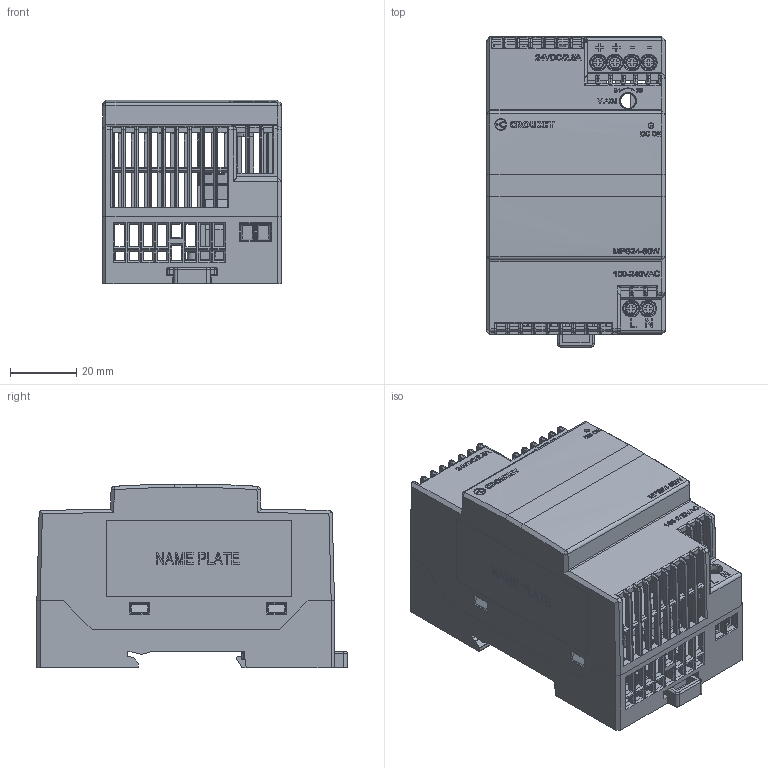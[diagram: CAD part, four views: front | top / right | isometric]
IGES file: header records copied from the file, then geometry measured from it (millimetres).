
Start section: SolidWorks IGES file using analytic representation for surfaces
Global section: file name: C:\Users\jamesy\Desktop\MPS24-60W.IGS; native system: SolidWorks 2019; preprocessor: SolidWorks 2019; author: jamesy; date: 190710.144737; units: millimetre
Bounding box: 54.15 x 93.83 x 55.6 mm (x, y, z)
Surface area: 59119 mm2 (no closed solid volume)
Topology: 0 solids, 0 shells, 2836 faces, 28070 edges, 27950 vertices
Faces by surface type: bspline 1790, revolution 1046
